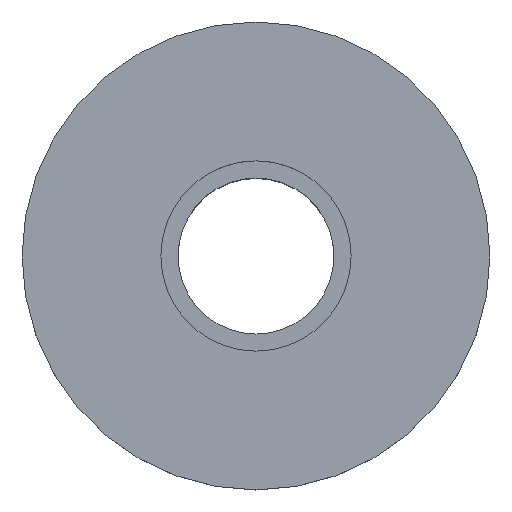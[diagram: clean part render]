
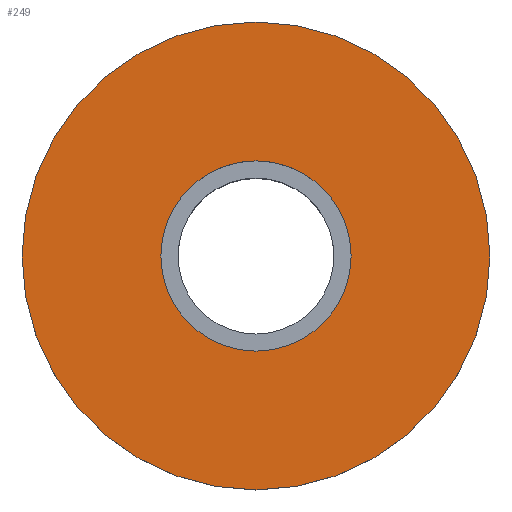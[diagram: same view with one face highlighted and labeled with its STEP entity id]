
A CAD part, top view. The second image highlights one B-rep face of the part: STEP entity #249.
In plain terms, the highlighted planar face has unit normal (0, 0, 1).
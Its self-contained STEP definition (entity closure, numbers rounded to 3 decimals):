
#4 = EDGE_CURVE ( 'NONE', #124, #368, #453, .T. ) ;
#6 = CARTESIAN_POINT ( 'NONE',  ( -15., 0., 0. ) ) ;
#14 = ORIENTED_EDGE ( 'NONE', *, *, #4, .T. ) ;
#29 = DIRECTION ( 'NONE',  ( 0., 0., 1. ) ) ;
#61 = EDGE_LOOP ( 'NONE', ( #280, #240 ) ) ;
#70 = CARTESIAN_POINT ( 'NONE',  ( 6.1, 0., 0. ) ) ;
#92 = CARTESIAN_POINT ( 'NONE',  ( -6.1, 0., 0. ) ) ;
#107 = DIRECTION ( 'NONE',  ( 1., 0., 0. ) ) ;
#124 = VERTEX_POINT ( 'NONE', #6 ) ;
#133 = EDGE_CURVE ( 'NONE', #368, #124, #233, .T. ) ;
#134 = CARTESIAN_POINT ( 'NONE',  ( 0., 15., 0. ) ) ;
#139 = AXIS2_PLACEMENT_3D ( 'NONE', #158, #228, #385 ) ;
#158 = CARTESIAN_POINT ( 'NONE',  ( 0., 0., 0. ) ) ;
#160 = DIRECTION ( 'NONE',  ( 1., 0., 0. ) ) ;
#174 = EDGE_LOOP ( 'NONE', ( #431, #14 ) ) ;
#207 = AXIS2_PLACEMENT_3D ( 'NONE', #134, #248, #328 ) ;
#226 = VERTEX_POINT ( 'NONE', #92 ) ;
#228 = DIRECTION ( 'NONE',  ( 0., 0., 1. ) ) ;
#231 = CIRCLE ( 'NONE', #427, 6.1 ) ;
#233 = CIRCLE ( 'NONE', #329, 15. ) ;
#240 = ORIENTED_EDGE ( 'NONE', *, *, #467, .F. ) ;
#248 = DIRECTION ( 'NONE',  ( 0., 0., 1. ) ) ;
#249 = ADVANCED_FACE ( 'NONE', ( #399, #429 ), #330, .T. ) ;
#255 = AXIS2_PLACEMENT_3D ( 'NONE', #402, #477, #478 ) ;
#265 = CARTESIAN_POINT ( 'NONE',  ( 0., 0., 0. ) ) ;
#279 = CIRCLE ( 'NONE', #255, 6.1 ) ;
#280 = ORIENTED_EDGE ( 'NONE', *, *, #282, .F. ) ;
#282 = EDGE_CURVE ( 'NONE', #438, #226, #279, .T. ) ;
#290 = CARTESIAN_POINT ( 'NONE',  ( 0., 0., 0. ) ) ;
#328 = DIRECTION ( 'NONE',  ( 1., 0., 0. ) ) ;
#329 = AXIS2_PLACEMENT_3D ( 'NONE', #290, #363, #160 ) ;
#330 = PLANE ( 'NONE',  #207 ) ;
#363 = DIRECTION ( 'NONE',  ( 0., 0., 1. ) ) ;
#368 = VERTEX_POINT ( 'NONE', #483 ) ;
#385 = DIRECTION ( 'NONE',  ( 1., 0., 0. ) ) ;
#399 = FACE_OUTER_BOUND ( 'NONE', #174, .T. ) ;
#402 = CARTESIAN_POINT ( 'NONE',  ( 0., 0., 0. ) ) ;
#427 = AXIS2_PLACEMENT_3D ( 'NONE', #265, #29, #107 ) ;
#429 = FACE_BOUND ( 'NONE', #61, .T. ) ;
#431 = ORIENTED_EDGE ( 'NONE', *, *, #133, .T. ) ;
#438 = VERTEX_POINT ( 'NONE', #70 ) ;
#453 = CIRCLE ( 'NONE', #139, 15. ) ;
#467 = EDGE_CURVE ( 'NONE', #226, #438, #231, .T. ) ;
#477 = DIRECTION ( 'NONE',  ( 0., 0., 1. ) ) ;
#478 = DIRECTION ( 'NONE',  ( 1., 0., 0. ) ) ;
#483 = CARTESIAN_POINT ( 'NONE',  ( 15., 0., 0. ) ) ;
